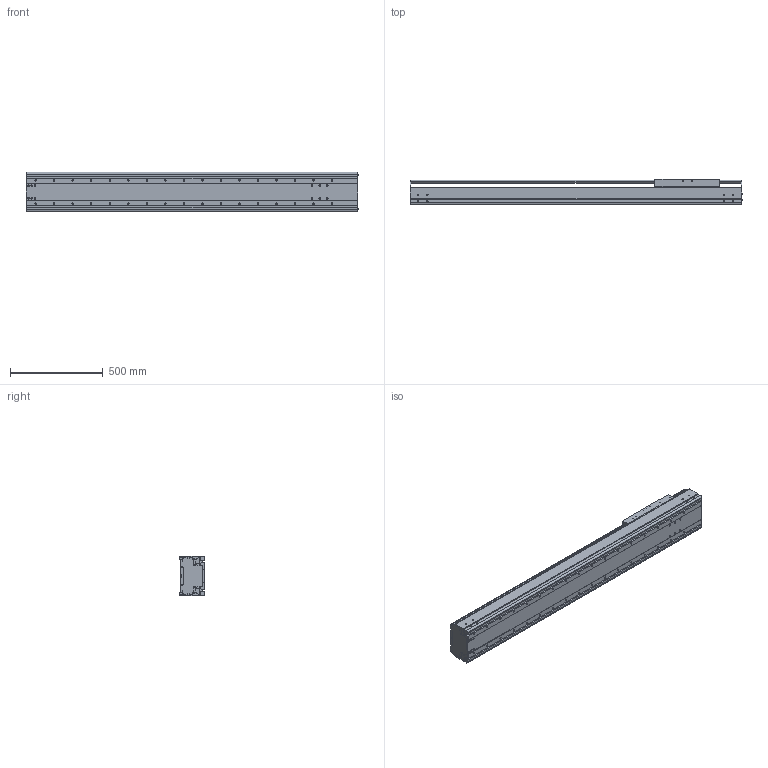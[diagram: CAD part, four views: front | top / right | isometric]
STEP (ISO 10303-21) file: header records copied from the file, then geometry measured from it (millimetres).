
FILE_DESCRIPTION((''),'2;1');
FILE_NAME('BE60J-ST-L_N-C5_IGS_PRT','2017-06-18T',(' '),(''),'PRO/ENGINEER BY PARAMETRIC TECHNOLOGY CORPORATION, 2015030','PRO/ENGINEER BY PARAMETRIC TECHNOLOGY CORPORATION, 2015030','');
FILE_SCHEMA(('CONFIG_CONTROL_DESIGN'));
Length unit declared in the file: millimetre
Products named in the file (1): BE60J-ST-L_N-C5_IGS_PRT
Bounding box: 1792.4 x 140 x 214 mm (x, y, z)
Volume: 14017774.9 mm3; surface area: 3803563.6 mm2
Topology: 2 solids, 128 shells, 1539 faces, 4338 edges, 2897 vertices
Faces by surface type: cylinder 812, plane 619, cone 60, sphere 24, torus 24
Entity records: 51986 total; most frequent: CARTESIAN_POINT 11695, DIRECTION 8398, ORIENTED_EDGE 8064, EDGE_CURVE 4280, AXIS2_PLACEMENT_3D 3144, VERTEX_POINT 2896, VECTOR 2110, LINE 2110
